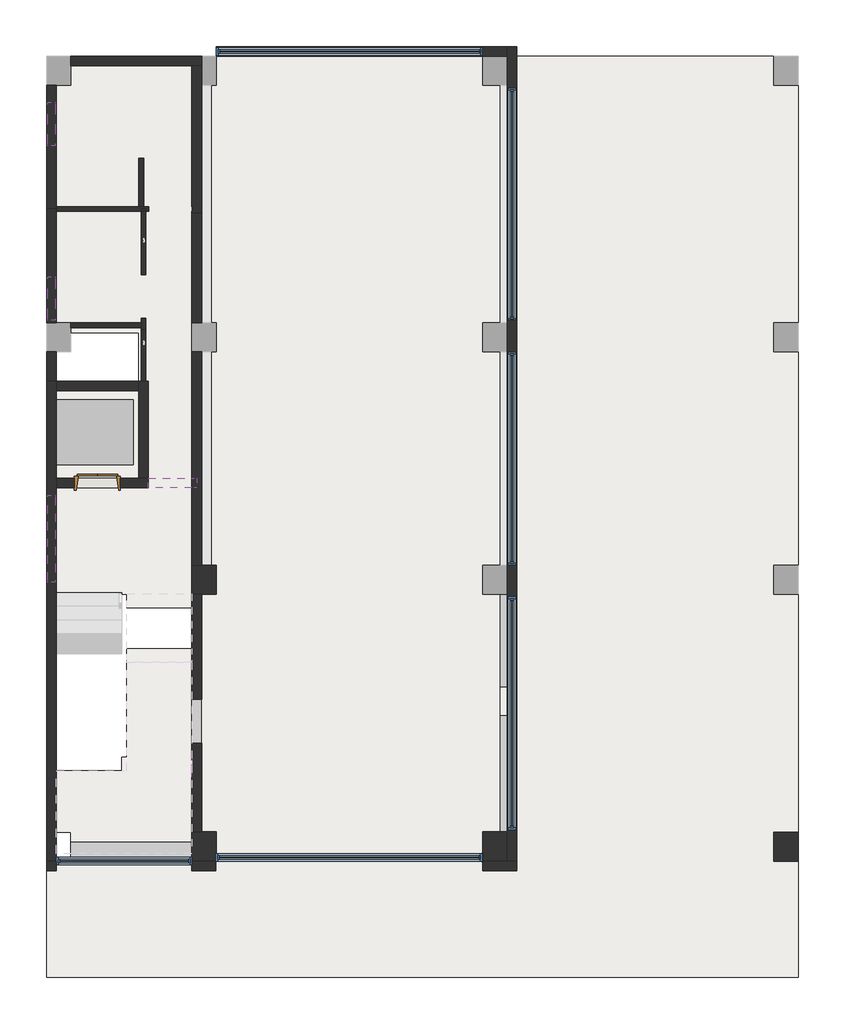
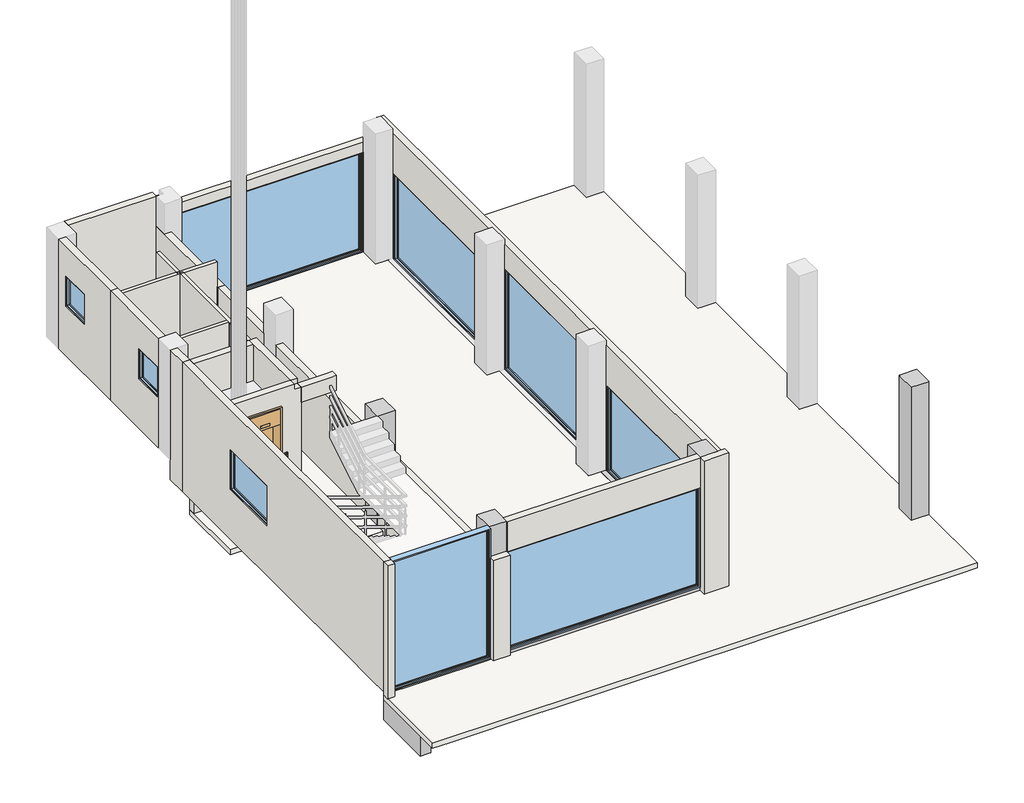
# One storey, part 1 of 2: 30 walls, 9 windows, 7 beams, 5 slabs, 4 columns, 1 door.
"""IFC4 building model written with IfcOpenShell, lengths in millimetres."""

from ifc_helpers import new_model, si_unit, frame, origin, origin_with_axes, place, context, project, spatial, polyline, outline, extrude, faceted_brep, transform, mapped, element, save
from components import door_097e9757, window_16c43cb3, window_f2f41d25, window_07c90ac9, window_f4563ead, window_f5195b1a, window_0159f90e, window_15473173

model = new_model("IFC4")

# Units and contexts
model_context = context("Model", 3, world=origin())
ifc_project = project(units=[si_unit("LENGTHUNIT", "METRE", prefix="MILLI")], contexts=[model_context])

# Site, building, storey
site = spatial("IfcSite", under=ifc_project)
building = spatial("IfcBuilding", under=site)
storey = spatial("IfcBuildingStorey", under=building, Name="1층", Elevation=0.0)

# Beams
placement = place(None, origin())
element("IfcBeam", 1, ObjectType="BM100-구조 보 : BM100-구조 보 400x900", at=placement, inside=storey, context=model_context, shape_type="Brep", body=[
    faceted_brep([(3250.0, -150.0, 0.0), (3250.0, -300.0, 0.0), (8750.0, -300.0, 0.0), (8750.0, -150.0, 0.0), (3250.0, -300.0, -900.0), (8750.0, -300.0, -900.0), (3250.0, 100.0, -900.0), (8750.0, 100.0, -900.0), (3250.0, 100.0, -150.0), (5663.2625647, 100.0, -150.0), (5963.2625647, 100.0, -150.0), (8750.0, 100.0, -150.0), (3250.0, -150.0, -150.0), (8750.0, -150.0, -150.0)], [[[0, 1, 2, 3]], [[1, 4, 5, 2]], [[4, 6, 7, 5]], [[6, 8, 9, 10, 11, 7]], [[12, 13, 11, 10, 9, 8]], [[13, 12, 0, 3]], [[6, 4, 1, 0, 12, 8]], [[3, 2, 5, 7, 11, 13]]]),
])
element("IfcBeam", 2, ObjectType="BM100-구조 보 : BM100-구조 보 400x900", at=placement, inside=storey, context=model_context, shape_type="Brep", body=[
    faceted_brep([(9250.0, 5200.0, 0.0), (9100.0, 5200.0, 0.0), (9100.0, 3300.0, 0.0), (9250.0, 3300.0, 0.0), (9250.0, 5200.0, -900.0), (9250.0, 3300.0, -100.0), (9250.0, 3300.0, -250.0), (9250.0, 3300.0, -900.0), (8850.0, 5200.0, -900.0), (8850.0, 3300.0, -900.0), (8850.0, 5200.0, -150.0), (8850.0, 3300.0, -150.0), (9100.0, 5200.0, -150.0), (9100.0, 3300.0, -100.0), (9100.0, 3300.0, -150.0)], [[[0, 1, 2, 3]], [[4, 0, 3, 5, 6, 7]], [[8, 4, 7, 9]], [[10, 8, 9, 11]], [[12, 1, 0, 4, 8, 10]], [[3, 2, 13, 14, 11, 9, 7, 6, 5]], [[1, 12, 14, 13, 2]], [[12, 10, 11, 14]]]),
    faceted_brep([(9250.0, 1840.0, -250.0), (9100.0, 1840.0, -250.0), (8850.0, 1840.0, -250.0), (8850.0, 1840.0, -900.0), (9250.0, 1840.0, -900.0), (9100.0, 1640.0, -250.0), (9250.0, 1640.0, -250.0), (9250.0, 1640.0, -900.0), (8850.0, 1640.0, -900.0), (8850.0, 1640.0, -250.0), (8850.0, 300.0, -150.0), (9100.0, 300.0, -150.0), (9100.0, 2700.0, -150.0), (8850.0, 2700.0, -150.0), (9100.0, 300.0, 0.0), (9100.0, 2700.0, 0.0), (9100.0, 2700.0, -100.0), (8850.0, 300.0, -900.0), (9250.0, 300.0, -900.0), (9250.0, 300.0, 0.0), (9250.0, 2700.0, 0.0), (9250.0, 2700.0, -100.0), (9250.0, 2700.0, -250.0), (9250.0, 2700.0, -900.0), (8850.0, 2700.0, -900.0)], [[[0, 1, 2, 3, 4]], [[5, 6, 7, 8, 9]], [[1, 0, 6, 5]], [[10, 11, 12, 13]], [[11, 14, 15, 16, 12]], [[2, 1, 5, 9]], [[11, 10, 17, 18, 19, 14]], [[15, 20, 21, 22, 23, 24, 13, 12, 16]], [[8, 7, 18, 17]], [[14, 19, 20, 15]], [[0, 4, 23, 22, 21, 20, 19, 18, 7, 6]], [[4, 3, 24, 23]], [[3, 2, 9, 8, 17, 10, 13, 24]]]),
])
element("IfcBeam", 3, ObjectType="BM100-구조 보 : BM100-구조 보 400x900", at=placement, inside=storey, context=model_context, shape_type="Brep", body=[
    faceted_brep([(2750.0, 5200.0, 0.0), (2750.0, 3035.0, 0.0), (2750.0, 2135.0, 0.0), (2750.0, 300.0, 0.0), (2950.0, 300.0, 0.0), (2950.0, 2135.0, 0.0), (2950.0, 3035.0, 0.0), (2950.0, 5200.0, 0.0), (3150.0, 1840.0, -900.0), (3150.0, 5200.0, -900.0), (3150.0, 5200.0, -150.0), (3150.0, 300.0, -150.0), (3150.0, 300.0, -900.0), (3150.0, 1640.0, -900.0), (3150.0, 1640.0, -250.0), (3150.0, 1840.0, -250.0), (2950.0, 300.0, -900.0), (2750.0, 300.0, -900.0), (2750.0, 1640.0, -900.0), (2850.0, 1640.0, -900.0), (2950.0, 1640.0, -900.0), (2750.0, 5200.0, -900.0), (2750.0, 1840.0, -900.0), (2750.0, 1840.0, -200.0), (2750.0, 1640.0, -200.0), (2850.0, 1840.0, -250.0), (2850.0, 1840.0, -200.0), (2850.0, 1840.0, -900.0), (2950.0, 1840.0, -900.0), (2850.0, 1640.0, -250.0), (2850.0, 1640.0, -200.0), (2950.0, 5200.0, -150.0), (2950.0, 300.0, -150.0), (2950.0, 5200.0, -900.0)], [[[0, 1, 2, 3, 4, 5, 6, 7]], [[8, 9, 10, 11, 12, 13, 14, 15]], [[12, 16, 17, 18, 19, 20, 13]], [[17, 3, 2, 1, 0, 21, 22, 23, 24, 18]], [[15, 25, 26, 23, 22, 27, 28, 8]], [[29, 14, 13, 20, 19, 18, 24, 30]], [[31, 32, 11, 10]], [[32, 31, 7, 6, 5, 4]], [[25, 15, 14, 29]], [[17, 16, 12, 11, 32, 4, 3]], [[9, 33, 21, 0, 7, 31, 10]], [[30, 26, 25, 29]], [[30, 24, 23, 26]], [[21, 33, 9, 8, 28, 27, 22]]]),
])
element("IfcBeam", 4, ObjectType="BM100-구조 보 : BM100-구조 보 400x600", at=placement, inside=storey, context=model_context, shape_type="Brep", body=[
    faceted_brep([(8750.0, 5300.0, -600.0), (8750.0, 5300.0, -150.0), (5963.2625647, 5300.0, -150.0), (5663.2625647, 5300.0, -150.0), (3250.0, 5300.0, -150.0), (3250.0, 5300.0, -600.0), (5663.2625647, 5300.0, -600.0), (5963.2625647, 5300.0, -600.0), (8750.0, 5700.0, -600.0), (3250.0, 5700.0, -600.0), (5663.2625647, 5700.0, -600.0), (5963.2625647, 5700.0, -600.0), (8750.0, 5700.0, -150.0), (3250.0, 5700.0, -150.0), (5663.2625647, 5700.0, -150.0), (5963.2625647, 5700.0, -150.0)], [[[0, 1, 2, 3, 4, 5, 6, 7]], [[8, 0, 7, 6, 5, 9, 10, 11]], [[12, 8, 11, 10, 9, 13, 14, 15]], [[4, 3, 2, 1, 12, 15, 14, 13]], [[0, 8, 12, 1]], [[5, 4, 13, 9]]]),
])
element("IfcBeam", 5, ObjectType="BM100-구조 보 : BM100-구조 보 300x600", at=placement, inside=storey, context=model_context, shape_type="SweptSolid", body=[
    extrude(outline(polyline([(5300.0, -600.0), (1840.0, -600.0), (1840.0, -250.0), (1640.0, -250.0), (1640.0, -600.0), (100.0, -600.0), (100.0, -150.0), (5300.0, -150.0), (5300.0, -600.0)])), frame((5663.2625647, 0.0, 0.0), z_axis=(1.0, 0.0, 0.0), x_axis=(0.0, 1.0, 0.0)), (0.0, 0.0, 1.0), 300.0),
])
element("IfcBeam", 6, ObjectType="BM100-구조 보 : BM100-구조 보 400x900", at=placement, inside=storey, context=model_context, shape_type="Brep", body=[
    faceted_brep([(250.0, 100.0, -50.0), (250.0, -300.0, -50.0), (2750.0, -300.0, -50.0), (2750.0, 100.0, -50.0), (250.0, -300.0, -950.0), (2750.0, -300.0, -950.0), (250.0, 100.0, -950.0), (2750.0, 100.0, -950.0), (250.0, 100.0, -200.0), (2750.0, 100.0, -200.0)], [[[0, 1, 2, 3]], [[1, 4, 5, 2]], [[4, 6, 7, 5]], [[6, 8, 0, 3, 9, 7]], [[1, 0, 8, 6, 4]], [[3, 2, 5, 7, 9]]]),
])
element("IfcBeam", 7, ObjectType="BM100-구조 보 : BM100-구조 보 300x600", at=placement, inside=storey, context=model_context, shape_type="Brep", body=[
    faceted_brep([(-250.0, -2100.0, -250.0), (50.0, -2100.0, -250.0), (50.0, -300.0, -250.0), (-250.0, -300.0, -250.0), (-250.0, -2100.0, -850.0), (-250.0, -300.0, -850.0), (50.0, -2100.0, -850.0), (-50.0, -2100.0, -850.0), (-50.0, -300.0, -850.0), (50.0, -300.0, -850.0)], [[[0, 1, 2, 3]], [[4, 0, 3, 5]], [[6, 7, 4, 5, 8, 9]], [[1, 6, 9, 2]], [[1, 0, 4, 7, 6]], [[3, 2, 9, 8, 5]]]),
])

# Columns
element("IfcColumn", 8, ObjectType="CL100-구조 기둥 : CL100-구조 기둥_500x600", at=placement, inside=storey, context=model_context, shape_type="Brep", body=[
    faceted_brep([(2750.0, -300.0, 0.0), (2750.0, 300.0, 0.0), (2950.0, 300.0, 0.0), (3250.0, 300.0, 0.0), (3250.0, -300.0, 0.0), (2750.0, -300.0, 3900.0), (2750.0, -150.0, 3900.0), (2750.0, 300.0, 3900.0), (2750.0, 300.0, 3750.0), (2750.0, 300.0, 3000.0), (2750.0, -300.0, 3750.0), (3250.0, 300.0, 3900.0), (3250.0, 300.0, 3750.0), (3250.0, -150.0, 3900.0), (3250.0, -300.0, 3900.0), (3250.0, -300.0, 3750.0), (3250.0, -300.0, 3150.0)], [[[0, 1, 2, 3, 4]], [[5, 6, 7, 8, 9, 1, 0, 10]], [[7, 11, 12, 3, 2, 1, 9, 8]], [[11, 13, 14, 15, 16, 4, 3, 12]], [[14, 5, 10, 0, 4, 16, 15]], [[5, 14, 13, 11, 7, 6]]]),
])
element("IfcColumn", 9, ObjectType="CL100-구조 기둥 : CL100-구조 기둥_500x600", at=placement, inside=storey, context=model_context, shape_type="Brep", body=[
    faceted_brep([(8750.0, -300.0, 0.0), (8750.0, 300.0, 0.0), (9250.0, 300.0, 0.0), (9250.0, -300.0, 0.0), (8750.0, -300.0, 3900.0), (8750.0, 300.0, 3900.0), (8750.0, 300.0, 3750.0), (8750.0, -300.0, 3750.0), (9250.0, 300.0, 3900.0), (9250.0, 300.0, 3750.0), (9250.0, -300.0, 3900.0), (9250.0, -300.0, 3750.0)], [[[0, 1, 2, 3]], [[4, 5, 6, 1, 0, 7]], [[5, 8, 9, 2, 1, 6]], [[8, 10, 11, 3, 2, 9]], [[10, 4, 7, 0, 3, 11]], [[4, 10, 8, 5]]]),
])
element("IfcColumn", 10, ObjectType="CL100-구조 기둥 : CL100-구조 기둥_500x600", at=placement, inside=storey, context=model_context, shape_type="Brep", body=[
    faceted_brep([(14750.0, -305.5, 3900.0), (14750.0, 200.0, 3900.0), (14750.0, 294.5, 3900.0), (14750.0, 294.5, 3750.0), (14750.0, 294.5, -100.0), (14750.0, -305.5, -100.0), (14750.0, -305.5, 3750.0), (15250.0, 294.5, 3900.0), (15250.0, 294.5, 3750.0), (15250.0, 294.5, -100.0), (15250.0, 200.0, 3900.0), (15250.0, -300.0, 3900.0), (15250.0, -305.5, 3900.0), (15250.0, -305.5, 3750.0), (15250.0, -305.5, -100.0)], [[[0, 1, 2, 3, 4, 5, 6]], [[2, 7, 8, 9, 4, 3]], [[7, 10, 11, 12, 13, 14, 9, 8]], [[12, 0, 6, 5, 14, 13]], [[2, 1, 0, 12, 11, 10, 7]], [[5, 4, 9, 14]]]),
])
element("IfcColumn", 11, ObjectType="CL100-구조 기둥 : CL100-구조 기둥_500x600", at=placement, inside=storey, context=model_context, shape_type="Brep", body=[
    faceted_brep([(2750.0, 5200.0, 600.0), (2750.0, 5800.0, 600.0), (3250.0, 5800.0, 600.0), (3250.0, 5200.0, 600.0), (2750.0, 5200.0, 3900.0), (2750.0, 5800.0, 3900.0), (2750.0, 5800.0, 3750.0), (2750.0, 5800.0, 2850.0), (2750.0, 5200.0, 3000.0), (2750.0, 5200.0, 3750.0), (3250.0, 5800.0, 3900.0), (3250.0, 5800.0, 3750.0), (3250.0, 5200.0, 3900.0), (3250.0, 5200.0, 3750.0)], [[[0, 1, 2, 3]], [[4, 5, 6, 7, 1, 0, 8, 9]], [[5, 10, 11, 2, 1, 7, 6]], [[10, 12, 13, 3, 2, 11]], [[12, 4, 9, 8, 0, 3, 13]], [[4, 12, 10, 5]]]),
])

# Door
door_shape = door_097e9757(model_context)
element("IfcDoor", 12, ObjectType="XX111-승객용 엘리베이터 (다용도, 800KG) 상판 출입구800 : 엘리베이터 800", at=placement, inside=storey, context=model_context, shape_type="MappedRepresentation", body=[
    mapped(door_shape, transform((925.0, 7500.0, 780.0), x_axis=(-1.0, 0.0, 0.0), y_axis=(0.0, -1.0, 0.0), z_axis=(0.0, 0.0, 1.0))),
])

# Slabs
element("IfcSlab", 13, ObjectType="SL100-구조 바닥 150", at=placement, inside=storey, context=model_context, shape_type="Brep", body=[
    faceted_brep([(15250.0, -2700.0, -250.0), (14750.0, -2700.0, -250.0), (9250.0, -2700.0, -250.0), (8750.0, -2700.0, -250.0), (3250.0, -2700.0, -250.0), (2750.0, -2700.0, -250.0), (250.0, -2700.0, -250.0), (-250.0, -2700.0, -250.0), (-250.0, -2100.0, -250.0), (-250.0, -300.0, -250.0), (50.0, -300.0, -250.0), (2950.0, -300.0, -250.0), (3150.0, -300.0, -250.0), (5663.2625647, -300.0, -250.0), (5963.2625647, -300.0, -250.0), (8850.0, -300.0, -250.0), (9100.0, -300.0, -250.0), (9100.0, 2700.0, -250.0), (9100.0, 3300.0, -250.0), (9100.0, 10500.0, -250.0), (9250.0, 10500.0, -250.0), (9250.0, 10700.0, -250.0), (9250.0, 15900.0, -250.0), (9250.0, 16300.0, -250.0), (14750.0, 16300.0, -250.0), (15250.0, 16300.0, -250.0), (15250.0, 15700.0, -250.0), (15250.0, 10800.0, -250.0), (15250.0, 10200.0, -250.0), (15250.0, 5800.0, -250.0), (15250.0, 5200.0, -250.0), (15250.0, 1840.0, -250.0), (15250.0, 1640.0, -250.0), (15250.0, 300.0, -250.0), (15250.0, -300.0, -250.0), (15250.0, -2100.0, -250.0), (-250.0, -2700.0, -100.0), (15250.0, -2700.0, -100.0), (15250.0, -305.5, -100.0), (15250.0, 294.5, -100.0), (15250.0, 5200.0, -100.0), (15250.0, 5800.0, -100.0), (15250.0, 10200.0, -100.0), (15250.0, 10800.0, -100.0), (15250.0, 15700.0, -100.0), (15250.0, 16300.0, -100.0), (14750.0, 16300.0, -100.0), (9250.0, 16300.0, -100.0), (9250.0, 10500.0, -100.0), (9100.0, 10500.0, -100.0), (9100.0, 3300.0, -100.0), (9100.0, 2700.0, -100.0), (9100.0, -300.0, -100.0), (-250.0, -300.0, -100.0)], [[[0, 1, 2, 3, 4, 5, 6, 7, 8, 9, 10, 11, 12, 13, 14, 15, 16, 17, 18, 19, 20, 21, 22, 23, 24, 25, 26, 27, 28, 29, 30, 31, 32, 33, 34, 35]], [[36, 37, 38, 39, 40, 41, 42, 43, 44, 45, 46, 47, 48, 49, 50, 51, 52, 53]], [[7, 6, 5, 4, 3, 2, 1, 0, 37, 36]], [[9, 8, 7, 36, 53]], [[16, 15, 14, 13, 12, 11, 10, 9, 53, 52]], [[16, 52, 51, 50, 49, 19, 18, 17]], [[45, 25, 24, 23, 47, 46]], [[0, 35, 34, 33, 32, 31, 30, 29, 28, 27, 26, 25, 45, 44, 43, 42, 41, 40, 39, 38, 37]], [[20, 48, 47, 23, 22, 21]], [[20, 19, 49, 48]]]),
])
element("IfcSlab", 14, ObjectType="SL100-구조 바닥 150", at=placement, inside=storey, context=model_context, shape_type="Brep", body=[
    faceted_brep([(-50.0, 1560.0, -200.0), (1299.7569864, 1560.0, -200.0), (1299.7569864, 1840.0, -200.0), (1400.2430136, 1840.0, -200.0), (1400.2430136, 4080.0, -200.0), (2750.0, 4080.0, -200.0), (2750.0, 1840.0, -200.0), (2750.0, 1640.0, -200.0), (2750.0, 100.0, -200.0), (250.0, 100.0, -200.0), (250.0, 300.0, -200.0), (-50.0, 300.0, -200.0), (1299.7569864, 1560.0, -50.0), (-50.0, 1560.0, -50.0), (-50.0, 300.0, -50.0), (250.0, 300.0, -50.0), (250.0, 100.0, -50.0), (2750.0, 100.0, -50.0), (2750.0, 4080.0, -50.0), (1400.2430136, 4080.0, -50.0), (1400.2430136, 1840.0, -50.0), (1299.7569864, 1840.0, -50.0)], [[[0, 1, 2, 3, 4, 5, 6, 7, 8, 9, 10, 11]], [[12, 13, 14, 15, 16, 17, 18, 19, 20, 21]], [[13, 0, 11, 14]], [[1, 0, 13, 12]], [[4, 3, 20, 19]], [[5, 4, 19, 18]], [[5, 18, 17, 8, 7, 6]], [[2, 1, 12, 21]], [[3, 2, 21, 20]], [[11, 10, 15, 14]], [[15, 10, 9, 16]], [[9, 8, 17, 16]]]),
])
element("IfcSlab", 15, ObjectType="SL100-구조 바닥 150", at=placement, inside=storey, context=model_context, shape_type="Brep", body=[
    faceted_brep([(-50.0, 5200.0, 450.0), (-50.0, 7600.0, 450.0), (1650.0, 7600.0, 450.0), (1650.0, 10600.0, 450.0), (250.0, 10600.0, 450.0), (250.0, 10800.0, 450.0), (-50.0, 10800.0, 450.0), (-50.0, 15700.0, 450.0), (250.0, 15700.0, 450.0), (250.0, 16100.0, 450.0), (2750.0, 16100.0, 450.0), (2750.0, 4920.0, 450.0), (1400.2430136, 4920.0, 450.0), (1400.2430136, 5200.0, 450.0), (-50.0, 7600.0, 600.0), (-50.0, 5200.0, 600.0), (1400.2430136, 5200.0, 600.0), (1400.2430136, 4920.0, 600.0), (2750.0, 4920.0, 600.0), (2750.0, 5200.0, 600.0), (2750.0, 5800.0, 600.0), (2750.0, 10200.0, 600.0), (2750.0, 10800.0, 600.0), (2750.0, 15700.0, 600.0), (2750.0, 16100.0, 600.0), (250.0, 16100.0, 600.0), (250.0, 15700.0, 600.0), (-50.0, 15700.0, 600.0), (-50.0, 10800.0, 600.0), (250.0, 10800.0, 600.0), (250.0, 10600.0, 600.0), (1650.0, 10600.0, 600.0), (1650.0, 7600.0, 600.0)], [[[0, 1, 2, 3, 4, 5, 6, 7, 8, 9, 10, 11, 12, 13]], [[14, 15, 16, 17, 18, 19, 20, 21, 22, 23, 24, 25, 26, 27, 28, 29, 30, 31, 32]], [[1, 0, 15, 14]], [[24, 10, 9, 25]], [[11, 10, 24, 23, 22, 21, 20, 19, 18]], [[0, 13, 16, 15]], [[2, 1, 14, 32]], [[3, 2, 32, 31]], [[3, 31, 30, 4]], [[6, 28, 27, 7]], [[12, 11, 18, 17]], [[13, 12, 17, 16]], [[5, 29, 28, 6]], [[29, 5, 4, 30]], [[8, 26, 25, 9]], [[26, 8, 7, 27]]]),
])
element("IfcSlab", 16, ObjectType="SL100-구조 바닥 150", at=placement, inside=storey, context=model_context, shape_type="SweptSolid", body=[
    extrude(outline(polyline([(1650.0, 9600.0), (1650.0, 7600.0), (-50.0, 7600.0), (-50.0, 9600.0), (1650.0, 9600.0)])), frame((0.0, 0.0, -750.0), z_axis=(0.0, 0.0, 1.0), x_axis=(1.0, 0.0, 0.0)), (0.0, 0.0, 1.0), 150.0),
])
element("IfcSlab", 17, ObjectType="SL100-구조 바닥 150", at=placement, inside=storey, context=model_context, shape_type="Brep", body=[
    faceted_brep([(3250.0, -150.0, -150.0), (3250.0, 100.0, -150.0), (3250.0, 300.0, -150.0), (3150.0, 300.0, -150.0), (2950.0, 300.0, -150.0), (2950.0, 5200.0, -150.0), (3150.0, 5200.0, -150.0), (3250.0, 5200.0, -150.0), (3250.0, 5300.0, -150.0), (3250.0, 5700.0, -150.0), (3250.0, 5800.0, -150.0), (3150.0, 5800.0, -150.0), (3150.0, 10200.0, -150.0), (3250.0, 10200.0, -150.0), (3250.0, 10300.0, -150.0), (3250.0, 10700.0, -150.0), (3250.0, 10800.0, -150.0), (3150.0, 10800.0, -150.0), (3150.0, 15700.0, -150.0), (3250.0, 15700.0, -150.0), (3250.0, 15900.0, -150.0), (3250.0, 16300.0, -150.0), (8750.0, 16300.0, -150.0), (8750.0, 15900.0, -150.0), (8750.0, 15700.0, -150.0), (8850.0, 15700.0, -150.0), (9100.0, 15700.0, -150.0), (9100.0, 10800.0, -150.0), (8850.0, 10800.0, -150.0), (8750.0, 10800.0, -150.0), (8750.0, 10700.0, -150.0), (8750.0, 10300.0, -150.0), (8750.0, 10200.0, -150.0), (8850.0, 10200.0, -150.0), (9100.0, 10200.0, -150.0), (9100.0, 5800.0, -150.0), (8850.0, 5800.0, -150.0), (8750.0, 5800.0, -150.0), (8750.0, 5700.0, -150.0), (8750.0, 5300.0, -150.0), (8750.0, 5200.0, -150.0), (8850.0, 5200.0, -150.0), (9100.0, 5200.0, -150.0), (9100.0, 3300.0, -150.0), (9100.0, 2700.0, -150.0), (9100.0, 300.0, -150.0), (8850.0, 300.0, -150.0), (8750.0, 300.0, -150.0), (8750.0, 100.0, -150.0), (8750.0, -150.0, -150.0), (3250.0, 300.0, 0.0), (3250.0, -150.0, 0.0), (8750.0, -150.0, 0.0), (8750.0, 300.0, 0.0), (9100.0, 300.0, 0.0), (9100.0, 2700.0, 0.0), (9100.0, 3300.0, 0.0), (9100.0, 5200.0, 0.0), (8750.0, 5200.0, 0.0), (8750.0, 5800.0, 0.0), (9100.0, 5800.0, 0.0), (9100.0, 10200.0, 0.0), (8750.0, 10200.0, 0.0), (8750.0, 10800.0, 0.0), (9100.0, 10800.0, 0.0), (9100.0, 15700.0, 0.0), (8750.0, 15700.0, 0.0), (8750.0, 16300.0, 0.0), (3250.0, 16300.0, 0.0), (3250.0, 15700.0, 0.0), (3150.0, 15700.0, 0.0), (3150.0, 10800.0, 0.0), (3250.0, 10800.0, 0.0), (3250.0, 10200.0, 0.0), (3150.0, 10200.0, 0.0), (3150.0, 5800.0, 0.0), (3250.0, 5800.0, 0.0), (3250.0, 5200.0, 0.0), (2950.0, 5200.0, 0.0), (2950.0, 300.0, 0.0)], [[[0, 1, 2, 3, 4, 5, 6, 7, 8, 9, 10, 11, 12, 13, 14, 15, 16, 17, 18, 19, 20, 21, 22, 23, 24, 25, 26, 27, 28, 29, 30, 31, 32, 33, 34, 35, 36, 37, 38, 39, 40, 41, 42, 43, 44, 45, 46, 47, 48, 49]], [[50, 51, 52, 53, 54, 55, 56, 57, 58, 59, 60, 61, 62, 63, 64, 65, 66, 67, 68, 69, 70, 71, 72, 73, 74, 75, 76, 77, 78, 79]], [[2, 1, 0, 51, 50]], [[4, 3, 2, 50, 79]], [[5, 4, 79, 78]], [[7, 6, 5, 78, 77]], [[10, 9, 8, 7, 77, 76]], [[10, 76, 75, 11]], [[73, 13, 12, 74]], [[16, 15, 14, 13, 73, 72]], [[16, 72, 71, 17]], [[69, 19, 18, 70]], [[21, 20, 19, 69, 68]], [[22, 21, 68, 67]], [[24, 23, 22, 67, 66]], [[26, 25, 24, 66, 65]], [[27, 26, 65, 64]], [[29, 28, 27, 64, 63]], [[32, 31, 30, 29, 63, 62]], [[34, 33, 32, 62, 61]], [[35, 34, 61, 60]], [[37, 36, 35, 60, 59]], [[40, 39, 38, 37, 59, 58]], [[42, 41, 40, 58, 57]], [[45, 44, 43, 42, 57, 56, 55, 54]], [[47, 46, 45, 54, 53]], [[49, 48, 47, 53, 52]], [[0, 49, 52, 51]], [[18, 17, 71, 70]], [[12, 11, 75, 74]]]),
])

# Walls
element("IfcWall", 18, ObjectType="WA100-구조 벽 200", at=placement, inside=storey, context=model_context, shape_type="SweptSolid", body=[
    extrude(outline(polyline([(15050.0, 10800.0), (15050.0, 15700.0), (15250.0, 15700.0), (15250.0, 10800.0), (15050.0, 10800.0)])), frame((0.0, 0.0, -1050.0), z_axis=(0.0, 0.0, 1.0), x_axis=(1.0, 0.0, 0.0)), (0.0, 0.0, 1.0), 200.0),
])
element("IfcWall", 19, ObjectType="WA100-구조 벽 200", at=placement, inside=storey, context=model_context, shape_type="Brep", body=[
    faceted_brep([(-50.0, 9600.0, 0.0), (-50.0, 9600.0, 3900.0), (-50.0, 9400.0, 3900.0), (-50.0, 7600.0, 3900.0), (-50.0, 7400.0, 3900.0), (-50.0, 5200.0, 3900.0), (-50.0, -100.0, 3900.0), (-50.0, -100.0, 0.0), (-50.0, 300.0, 0.0), (-50.0, 1600.0, 0.0), (-50.0, 7500.0, 0.0), (-50.0, 7250.0, 2700.0), (-50.0, 7250.0, 1500.0), (-50.0, 5450.0, 1500.0), (-50.0, 5450.0, 2700.0), (-250.0, 9600.0, 0.0), (-250.0, 7500.0, 0.0), (-250.0, 1600.0, 0.0), (-250.0, 300.0, 0.0), (-250.0, -300.0, 0.0), (-250.0, -400.0, 0.0), (-250.0, -400.0, 3900.0), (-250.0, -300.0, 3900.0), (-250.0, 5200.0, 3900.0), (-250.0, 7600.0, 3900.0), (-250.0, 9600.0, 3900.0), (-250.0, 7250.0, 1500.0), (-250.0, 7250.0, 2700.0), (-250.0, 5450.0, 2700.0), (-250.0, 5450.0, 1500.0), (-50.25, -100.0, 0.0), (-50.25, -400.0, 0.0), (-50.25, -400.0, 3900.0), (-50.25, -100.0, 3900.0)], [[[0, 1, 2, 3, 4, 5, 6, 7, 8, 9, 10], [11, 12, 13, 14]], [[15, 16, 17, 18, 19, 20, 21, 22, 23, 24, 25], [26, 27, 28, 29]], [[20, 19, 18, 17, 16, 15, 0, 10, 9, 8, 7, 30, 31]], [[1, 0, 15, 25]], [[25, 24, 23, 22, 21, 32, 33, 6, 5, 4, 3, 2, 1]], [[21, 20, 31, 32]], [[11, 27, 26, 12]], [[12, 26, 29, 13]], [[13, 29, 28, 14]], [[27, 11, 14, 28]], [[33, 30, 7, 6]], [[30, 33, 32, 31]]]),
])
element("IfcWall", 20, ObjectType="WA100-구조 벽 200", at=placement, inside=storey, context=model_context, shape_type="Brep", body=[
    faceted_brep([(-50.0, 7400.0, 600.0), (1850.0, 7400.0, 600.0), (1850.0, 7400.0, 3300.0), (1850.0, 7400.0, 3750.0), (1650.0, 7400.0, 3750.0), (1650.0, 7400.0, 3900.0), (-50.0, 7400.0, 3900.0), (-50.0, 7400.0, 3750.0), (1275.0, 7400.0, 3380.0), (1275.0, 7400.0, 780.0), (325.0, 7400.0, 780.0), (325.0, 7400.0, 3380.0), (1850.0, 7600.0, 600.0), (-50.0, 7600.0, 600.0), (-50.0, 7600.0, 3900.0), (1650.0, 7600.0, 3900.0), (1650.0, 7600.0, 3750.0), (1850.0, 7600.0, 3750.0), (1850.0, 7600.0, 3300.0), (1275.0, 7600.0, 780.0), (1275.0, 7600.0, 3380.0), (325.0, 7600.0, 3380.0), (325.0, 7600.0, 780.0)], [[[0, 1, 2, 3, 4, 5, 6, 7], [8, 9, 10, 11]], [[12, 13, 14, 15, 16, 17, 18], [19, 20, 21, 22]], [[1, 0, 13, 12]], [[14, 6, 5, 15]], [[6, 14, 13, 0, 7]], [[19, 9, 8, 20]], [[9, 19, 22, 10]], [[10, 22, 21, 11]], [[20, 8, 11, 21]], [[16, 4, 3, 17]], [[1, 12, 18, 17, 3, 2]], [[4, 16, 15, 5]]]),
])
element("IfcWall", 21, ObjectType="WA700-수장 벽 100", at=placement, inside=storey, context=model_context, shape_type="SweptSolid", body=[
    extrude(outline(polyline([(1700.0, 10700.0), (250.0, 10700.0), (250.0, 10800.0), (1700.0, 10800.0), (1700.0, 10700.0)])), frame((0.0, 0.0, 600.0), z_axis=(0.0, 0.0, 1.0), x_axis=(1.0, 0.0, 0.0)), (0.0, 0.0, 1.0), 3150.0),
])
element("IfcWall", 22, ObjectType="WA100-구조 벽 200", at=placement, inside=storey, context=model_context, shape_type="Brep", body=[
    faceted_brep([(2950.0, 5200.0, 0.0), (2950.0, 5200.0, 2850.0), (2950.0, 5200.0, 3000.0), (2950.0, 300.0, 3000.0), (2950.0, 300.0, 2850.0), (2950.0, 300.0, 0.0), (2950.0, 2135.0, 0.0), (2950.0, 2135.0, 1800.0), (2950.0, 3035.0, 1800.0), (2950.0, 3035.0, 0.0), (2750.0, 5200.0, 3000.0), (2750.0, 5200.0, 600.0), (2750.0, 5200.0, 0.0), (2750.0, 3035.0, 0.0), (2750.0, 3035.0, 1800.0), (2750.0, 2135.0, 1800.0), (2750.0, 2135.0, 0.0), (2750.0, 300.0, 0.0), (2750.0, 300.0, 3000.0)], [[[0, 1, 2, 3, 4, 5, 6, 7, 8, 9]], [[10, 11, 12, 13, 14, 15, 16, 17, 18]], [[12, 0, 9, 13]], [[5, 17, 16, 6]], [[2, 1, 0, 12, 11, 10]], [[3, 2, 10, 18]], [[5, 4, 3, 18, 17]], [[15, 7, 6, 16]], [[7, 15, 14, 8]], [[8, 14, 13, 9]]]),
])
element("IfcWall", 23, ObjectType="WA100-구조 벽 200", at=placement, inside=storey, context=model_context, shape_type="SweptSolid", body=[
    extrude(outline(polyline([(1850.0, 9600.0), (1850.0, 7600.0), (1650.0, 7600.0), (1650.0, 9600.0), (1850.0, 9600.0)])), frame((0.0, 0.0, 600.0), z_axis=(0.0, 0.0, 1.0), x_axis=(1.0, 0.0, 0.0)), (0.0, 0.0, 1.0), 3300.0),
])
element("IfcWall", 24, ObjectType="WA100-구조 벽 200", at=placement, inside=storey, context=model_context, shape_type="Brep", body=[
    faceted_brep([(-50.0, 9400.0, 3900.0), (-50.0, 9400.0, -600.0), (1650.0, 9400.0, -600.0), (1650.0, 9400.0, 3900.0), (-50.0, 9600.0, -600.0), (-50.0, 9600.0, 0.0), (-50.0, 9600.0, 3900.0), (1650.0, 9600.0, 3900.0), (1650.0, 9600.0, -600.0), (1650.0, 9500.0, 3900.0), (-50.0, 9500.0, 3900.0)], [[[0, 1, 2, 3]], [[4, 5, 6, 7, 8]], [[2, 1, 4, 8]], [[0, 3, 9, 7, 6, 10]], [[2, 8, 7, 9, 3]], [[0, 10, 6, 5, 4, 1]]]),
])
element("IfcWall", 25, ObjectType="WA700-수장 벽 100", at=placement, inside=storey, context=model_context, shape_type="SweptSolid", body=[
    extrude(outline(polyline([(1700.0, 13100.0), (1700.0, 13150.0), (1800.0, 13150.0), (1800.0, 13100.0), (1700.0, 13100.0)])), frame((0.0, 0.0, 600.0), z_axis=(0.0, 0.0, 1.0), x_axis=(1.0, 0.0, 0.0)), (0.0, 0.0, 1.0), 3150.0),
])
element("IfcWall", 26, ObjectType="WA700-수장 벽 100", at=placement, inside=storey, context=model_context, shape_type="Brep", body=[
    faceted_brep([(2750.0, 13100.0, 3750.0), (1800.0, 13100.0, 3750.0), (1700.0, 13100.0, 3750.0), (-50.0, 13100.0, 3750.0), (-50.0, 13100.0, 600.0), (1700.0, 13100.0, 600.0), (1800.0, 13100.0, 600.0), (1855.0, 13100.0, 600.0), (1855.0, 13100.0, 2400.0), (2750.0, 13100.0, 2400.0), (-50.0, 13200.0, 3750.0), (1650.0, 13200.0, 3750.0), (1750.0, 13200.0, 3750.0), (2750.0, 13200.0, 3750.0), (2750.0, 13200.0, 2400.0), (1855.0, 13200.0, 2400.0), (1855.0, 13200.0, 600.0), (1750.0, 13200.0, 600.0), (1650.0, 13200.0, 600.0), (-50.0, 13200.0, 600.0), (-50.0, 13150.0, 600.0)], [[[0, 1, 2, 3, 4, 5, 6, 7, 8, 9]], [[10, 11, 12, 13, 14, 15, 16, 17, 18, 19]], [[4, 20, 19, 18, 17, 16, 7, 6, 5]], [[13, 0, 9, 14]], [[3, 2, 1, 0, 13, 12, 11, 10]], [[8, 15, 14, 9]], [[15, 8, 7, 16]], [[4, 3, 10, 19, 20]]]),
])
element("IfcWall", 27, ObjectType="WA100-구조 벽 200", at=placement, inside=storey, context=model_context, shape_type="SweptSolid", body=[
    extrude(outline(polyline([(2950.0, 10200.0), (2950.0, 5800.0), (2750.0, 5800.0), (2750.0, 10200.0), (2950.0, 10200.0)])), frame((0.0, 0.0, 600.0), z_axis=(0.0, 0.0, 1.0), x_axis=(1.0, 0.0, 0.0)), (0.0, 0.0, 1.0), 2400.0),
])
element("IfcWall", 28, ObjectType="WA100-구조 벽 200", at=placement, inside=storey, context=model_context, shape_type="Brep", body=[
    faceted_brep([(2750.0, 13060.0, 600.0), (2750.0, 13060.0, 3000.0), (2750.0, 16100.0, 3000.0), (2750.0, 16100.0, 600.0), (2750.0, 13200.0, 600.0), (2750.0, 13200.0, 2400.0), (2750.0, 13100.0, 2400.0), (2750.0, 13100.0, 600.0), (2950.0, 13060.0, 600.0), (2950.0, 16100.0, 600.0), (2950.0, 16100.0, 3000.0), (2950.0, 13060.0, 3000.0), (2755.0, 13100.0, 600.0), (2755.0, 13200.0, 600.0), (2755.0, 13100.0, 2400.0), (2755.0, 13200.0, 2400.0)], [[[0, 1, 2, 3, 4, 5, 6, 7]], [[8, 9, 10, 11]], [[9, 8, 0, 7, 12, 13, 4, 3]], [[1, 0, 8, 11]], [[2, 1, 11, 10]], [[14, 12, 7, 6]], [[13, 15, 5, 4]], [[12, 14, 15, 13]], [[15, 14, 6, 5]], [[3, 2, 10, 9]]]),
])
element("IfcWall", 29, ObjectType="WA100-구조 벽 200", at=placement, inside=storey, context=model_context, shape_type="Brep", body=[
    faceted_brep([(250.0, 16100.0, 600.0), (2750.0, 16100.0, 600.0), (2950.0, 16100.0, 600.0), (2950.0, 16100.0, 3750.0), (2750.0, 16100.0, 3750.0), (2750.0, 16100.0, 3900.0), (250.0, 16100.0, 3900.0), (250.0, 16100.0, 3750.0), (2950.0, 16300.0, 600.0), (2750.0, 16300.0, 600.0), (250.0, 16300.0, 600.0), (250.0, 16300.0, 3900.0), (2750.0, 16300.0, 3900.0), (2750.0, 16300.0, 3750.0), (2950.0, 16300.0, 3750.0)], [[[0, 1, 2, 3, 4, 5, 6, 7]], [[8, 9, 10, 11, 12, 13, 14]], [[2, 1, 0, 10, 9, 8]], [[11, 6, 5, 12]], [[11, 10, 0, 7, 6]], [[13, 4, 3, 14]], [[4, 13, 12, 5]], [[2, 8, 14, 3]]]),
])
element("IfcWall", 30, ObjectType="WA700-수장 벽 100", at=placement, inside=storey, context=model_context, shape_type="SweptSolid", body=[
    extrude(outline(polyline([(1750.0, 13200.0), (1750.0, 13150.0), (1650.0, 13150.0), (1650.0, 13200.0), (1750.0, 13200.0)])), frame((0.0, 0.0, 600.0), z_axis=(0.0, 0.0, 1.0), x_axis=(1.0, 0.0, 0.0)), (0.0, 0.0, 1.0), 3150.0),
])
element("IfcWall", 31, ObjectType="WA100-구조 벽 200", at=placement, inside=storey, context=model_context, shape_type="Brep", body=[
    faceted_brep([(2850.0, 7600.0, 3300.0), (2750.0, 7600.0, 3300.0), (1850.0, 7600.0, 3300.0), (1850.0, 7600.0, 3750.0), (2750.0, 7600.0, 3750.0), (2850.0, 7600.0, 3750.0), (1850.0, 7400.0, 3300.0), (2750.0, 7400.0, 3300.0), (2850.0, 7400.0, 3300.0), (2850.0, 7400.0, 3750.0), (2750.0, 7400.0, 3750.0), (1850.0, 7400.0, 3750.0)], [[[0, 1, 2, 3, 4, 5]], [[6, 7, 8, 9, 10, 11]], [[2, 1, 0, 8, 7, 6]], [[8, 0, 5, 9]], [[2, 6, 11, 3]], [[5, 4, 3, 11, 10, 9]]]),
])
element("IfcWall", 32, ObjectType="WA100-구조 벽 200", at=placement, inside=storey, context=model_context, shape_type="SweptSolid", body=[
    extrude(outline(polyline([(15050.0, 1840.0), (15050.0, 5200.0), (15250.0, 5200.0), (15250.0, 1840.0), (15050.0, 1840.0)])), frame((0.0, 0.0, -1050.0), z_axis=(0.0, 0.0, 1.0), x_axis=(1.0, 0.0, 0.0)), (0.0, 0.0, 1.0), 200.0),
])
element("IfcWall", 33, ObjectType="WA100-구조 벽 200", at=placement, inside=storey, context=model_context, shape_type="Brep", body=[
    faceted_brep([(-50.0, 10800.0, 600.0), (-50.0, 13100.0, 600.0), (-50.0, 13150.0, 600.0), (-50.0, 13150.0, 3900.0), (-50.0, 10800.0, 3900.0), (-50.0, 10850.0, 2100.0), (-50.0, 10850.0, 3000.0), (-50.0, 11750.0, 3000.0), (-50.0, 11750.0, 2100.0), (-250.0, 13150.0, 600.0), (-250.0, 10800.0, 600.0), (-250.0, 10800.0, 3900.0), (-250.0, 13150.0, 3900.0), (-250.0, 10850.0, 3000.0), (-250.0, 10850.0, 2100.0), (-250.0, 11750.0, 2100.0), (-250.0, 11750.0, 3000.0)], [[[0, 1, 2, 3, 4], [5, 6, 7, 8]], [[9, 10, 11, 12], [13, 14, 15, 16]], [[2, 1, 0, 10, 9]], [[4, 3, 12, 11]], [[0, 4, 11, 10]], [[13, 6, 5, 14]], [[14, 5, 8, 15]], [[15, 8, 7, 16]], [[6, 13, 16, 7]], [[2, 9, 12, 3]]]),
])
element("IfcWall", 34, ObjectType="WA100-구조 벽 200", at=placement, inside=storey, context=model_context, shape_type="Brep", body=[
    faceted_brep([(15050.0, 10200.0, -1050.0), (15050.0, 5800.0, -1050.0), (15050.0, 5800.0, -850.0), (15050.0, 10200.0, -850.0), (15250.0, 10200.0, -1050.0), (15250.0, 10200.0, -850.0), (15250.0, 5802.1275994, -850.0), (15250.0, 5800.0, -850.0), (15250.0, 5800.0, -1050.0)], [[[0, 1, 2, 3]], [[4, 5, 6, 7, 8]], [[1, 0, 4, 8]], [[2, 1, 8, 7]], [[3, 2, 7, 6, 5]], [[0, 3, 5, 4]]]),
])
element("IfcWall", 35, ObjectType="WA100-구조 벽 200", at=placement, inside=storey, context=model_context, shape_type="SweptSolid", body=[
    extrude(outline(polyline([(3240.0, -300.0), (3240.0, -500.0), (2749.75, -500.0), (2749.75, -300.0), (3240.0, -300.0)])), origin_with_axes(), (0.0, 0.0, 1.0), 3000.0),
])
element("IfcWall", 36, ObjectType="WA100-구조 벽 200", at=placement, inside=storey, context=model_context, shape_type="SweptSolid", body=[
    extrude(outline(polyline([(-50.0, -500.0), (-250.0, -500.0), (-250.0, -300.0), (-50.0, -300.0), (-50.0, -500.0)])), frame((0.0, 0.0, -100.0), z_axis=(0.0, 0.0, 1.0), x_axis=(1.0, 0.0, 0.0)), (0.0, 0.0, 1.0), 4000.0),
])
element("IfcWall", 37, ObjectType="WA100-구조 벽 200", at=placement, inside=storey, context=model_context, shape_type="Brep", body=[
    faceted_brep([(8750.0, -500.0, -150.0), (9450.0, -500.0, -150.0), (9450.0, -500.0, 3900.0), (8750.0, -500.0, 3900.0), (8750.0, -300.0, -150.0), (8750.0, -300.0, 3900.0), (9450.0, -300.0, 3900.0), (9450.0, -300.0, 3750.0), (9450.0, -300.0, -150.0), (9250.0, -300.0, -150.0), (8750.0, -325.0, 3900.0)], [[[0, 1, 2, 3]], [[4, 5, 6, 7, 8, 9]], [[1, 0, 4, 9, 8]], [[3, 2, 6, 5, 10]], [[0, 3, 10, 5, 4]], [[2, 1, 8, 7, 6]]]),
])
element("IfcWall", 38, ObjectType="WA100-구조 벽 200", at=placement, inside=storey, context=model_context, shape_type="Brep", body=[
    faceted_brep([(9250.0, 16500.0, -150.0), (9250.0, 16300.0, -150.0), (9250.0, -300.0, -150.0), (9250.0, -300.0, 3750.0), (9250.0, 16500.0, 3750.0), (9250.0, 16500.0, 3300.0), (9250.0, 5800.0, 3000.0), (9250.0, 5800.0, 0.0), (9250.0, 10200.0, 0.0), (9250.0, 10200.0, 3000.0), (9250.0, 350.0, 2550.0), (9250.0, 350.0, 0.0), (9250.0, 5150.0, 0.0), (9250.0, 5150.0, 2550.0), (9250.0, 10850.0, 2550.0), (9250.0, 10850.0, 0.0), (9250.0, 15650.0, 0.0), (9250.0, 15650.0, 2550.0), (9450.0, 16500.0, -150.0), (9450.0, 16500.0, 3750.0), (9450.0, -300.0, 3750.0), (9450.0, -300.0, -150.0), (9450.0, 5800.0, 3000.0), (9450.0, 10200.0, 3000.0), (9450.0, 10200.0, 0.0), (9450.0, 5800.0, 0.0), (9450.0, 350.0, 2550.0), (9450.0, 5150.0, 2550.0), (9450.0, 5150.0, 0.0), (9450.0, 350.0, 0.0), (9450.0, 10850.0, 2550.0), (9450.0, 15650.0, 2550.0), (9450.0, 15650.0, 0.0), (9450.0, 10850.0, 0.0)], [[[0, 1, 2, 3, 4, 5], [6, 7, 8, 9], [10, 11, 12, 13], [14, 15, 16, 17]], [[18, 19, 20, 21], [22, 23, 24, 25], [26, 27, 28, 29], [30, 31, 32, 33]], [[2, 1, 0, 18, 21]], [[4, 3, 20, 19]], [[3, 2, 21, 20]], [[0, 5, 4, 19, 18]], [[7, 6, 22, 25]], [[8, 7, 25, 24]], [[9, 8, 24, 23]], [[6, 9, 23, 22]], [[11, 10, 26, 29]], [[12, 11, 29, 28]], [[13, 12, 28, 27]], [[10, 13, 27, 26]], [[15, 14, 30, 33]], [[16, 15, 33, 32]], [[17, 16, 32, 31]], [[14, 17, 31, 30]]]),
])
element("IfcWall", 39, ObjectType="WA100-구조 벽 200", at=placement, inside=storey, context=model_context, shape_type="SweptSolid", body=[
    extrude(outline(polyline([(-150.0, 3250.0), (-150.0, 9250.0), (3300.0, 9250.0), (3300.0, 3250.0), (3000.0, 3250.0), (3000.0, 8750.0), (0.0, 8750.0), (0.0, 3250.0), (-150.0, 3250.0)])), frame((0.0, 16300.0, 0.0), z_axis=(0.0, 1.0, 0.0), x_axis=(0.0, 0.0, 1.0)), (0.0, 0.0, 1.0), 200.0),
])
element("IfcWall", 40, ObjectType="A-두겁석-T10", at=placement, inside=storey, context=model_context, shape_type="SweptSolid", body=[
    extrude(outline(polyline([(2750.0, 1915.0), (2750.0, 1440.0), (2740.0, 1440.0), (2740.0, 1915.0), (2750.0, 1915.0)])), frame((0.0, 0.0, 1258.0473296), z_axis=(0.0, 0.0, 1.0), x_axis=(1.0, 0.0, 0.0)), (0.0, 0.0, 1.0), 170.0),
])
element("IfcWall", 41, ObjectType="WA100-구조 벽 200", at=placement, inside=storey, context=model_context, shape_type="Brep", body=[
    faceted_brep([(8750.0, -325.0, 0.0), (8750.0, -325.0, 3900.0), (3250.0, -325.0, 3900.0), (3250.0, -325.0, 3000.0), (8740.0, -325.0, 3000.0), (8740.0, -325.0, 0.0), (8750.0, -125.0, 3900.0), (8750.0, -125.0, 0.0), (8740.0, -125.0, 0.0), (8740.0, -125.0, 3000.0), (3250.0, -125.0, 3000.0), (3250.0, -125.0, 3900.0), (8750.0, -300.0, 3900.0)], [[[0, 1, 2, 3, 4, 5]], [[6, 7, 8, 9, 10, 11]], [[7, 0, 5, 8]], [[1, 0, 7, 6, 12]], [[2, 1, 12, 6, 11]], [[2, 11, 10, 3]], [[4, 9, 8, 5]], [[9, 4, 3, 10]]]),
])
element("IfcWall", 42, ObjectType="WA100-구조 벽 200", at=placement, inside=storey, context=model_context, shape_type="Brep", body=[
    faceted_brep([(-50.0, 13150.0, 3900.0), (-50.0, 13150.0, 600.0), (-50.0, 13200.0, 600.0), (-50.0, 15700.0, 600.0), (-50.0, 15700.0, 3900.0), (-50.0, 15350.0, 3000.0), (-50.0, 15350.0, 2100.0), (-50.0, 14450.0, 2100.0), (-50.0, 14450.0, 3000.0), (-250.0, 13150.0, 600.0), (-250.0, 13150.0, 3900.0), (-250.0, 15700.0, 3900.0), (-250.0, 15700.0, 600.0), (-250.0, 15350.0, 3000.0), (-250.0, 14450.0, 3000.0), (-250.0, 14450.0, 2100.0), (-250.0, 15350.0, 2100.0)], [[[0, 1, 2, 3, 4], [5, 6, 7, 8]], [[9, 10, 11, 12], [13, 14, 15, 16]], [[3, 2, 1, 9, 12]], [[4, 3, 12, 11]], [[0, 4, 11, 10]], [[5, 8, 14, 13]], [[8, 7, 15, 14]], [[7, 6, 16, 15]], [[6, 5, 13, 16]], [[0, 10, 9, 1]]]),
])
element("IfcWall", 43, ObjectType="WA700-수장 벽 100", at=placement, inside=storey, context=model_context, shape_type="Brep", body=[
    faceted_brep([(1700.0, 10662.7770914, 3750.0), (1700.0, 10700.0, 3750.0), (1700.0, 10800.0, 3750.0), (1700.0, 13100.0, 3750.0), (1700.0, 13100.0, 600.0), (1700.0, 11795.0, 600.0), (1700.0, 11795.0, 2400.0), (1700.0, 10895.0, 2400.0), (1700.0, 10895.0, 600.0), (1700.0, 10800.0, 600.0), (1700.0, 10700.0, 600.0), (1700.0, 10662.7770914, 600.0), (1800.0, 13100.0, 3750.0), (1800.0, 10662.7770914, 3750.0), (1800.0, 10662.7770914, 600.0), (1800.0, 10895.0, 600.0), (1800.0, 10895.0, 2400.0), (1800.0, 11795.0, 2400.0), (1800.0, 11795.0, 600.0), (1800.0, 13100.0, 600.0)], [[[0, 1, 2, 3, 4, 5, 6, 7, 8, 9, 10, 11]], [[12, 13, 14, 15, 16, 17, 18, 19]], [[14, 11, 10, 9, 8, 15]], [[4, 19, 18, 5]], [[3, 2, 1, 0, 13, 12]], [[7, 16, 15, 8]], [[16, 7, 6, 17]], [[17, 6, 5, 18]], [[11, 14, 13, 0]], [[4, 3, 12, 19]]]),
])
element("IfcWall", 44, ObjectType="WA700-수장 벽 100", at=placement, inside=storey, context=model_context, shape_type="SweptSolid", body=[
    extrude(outline(polyline([(1750.0, 14200.0), (1750.0, 13200.0), (1650.0, 13200.0), (1650.0, 14200.0), (1750.0, 14200.0)])), frame((0.0, 0.0, 600.0), z_axis=(0.0, 0.0, 1.0), x_axis=(1.0, 0.0, 0.0)), (0.0, 0.0, 1.0), 3150.0),
])
element("IfcWall", 45, ObjectType="WA100-구조 벽 200", at=placement, inside=storey, context=model_context, shape_type="SweptSolid", body=[
    extrude(outline(polyline([(2750.0, 10800.0), (2750.0, 13060.0), (2950.0, 13060.0), (2950.0, 10800.0), (2750.0, 10800.0)])), frame((0.0, 0.0, 600.0), z_axis=(0.0, 0.0, 1.0), x_axis=(1.0, 0.0, 0.0)), (0.0, 0.0, 1.0), 2400.0),
])
element("IfcWall", 46, ObjectType="WA100-구조 벽 200", at=placement, inside=storey, context=model_context, shape_type="Brep", body=[
    faceted_brep([(-50.0, 9600.0, 0.0), (-50.0, 10200.0, 0.0), (-50.0, 10200.0, 3900.0), (-50.0, 9600.0, 3900.0), (-250.0, 9600.0, 0.0), (-250.0, 9600.0, 3900.0), (-250.0, 10200.0, 3900.0), (-250.0, 10200.0, 600.0), (-250.0, 10200.0, 0.0)], [[[0, 1, 2, 3]], [[4, 5, 6, 7, 8]], [[1, 0, 4, 8]], [[2, 1, 8, 7, 6]], [[3, 2, 6, 5]], [[0, 3, 5, 4]]]),
])
element("IfcWall", 47, ObjectType="WA700-수장 벽 100", at=placement, inside=storey, context=model_context, shape_type="SweptSolid", body=[
    extrude(outline(polyline([(1700.0, 9600.0), (1700.0, 10662.7770914), (1800.0, 10662.7770914), (1800.0, 9600.0), (1700.0, 9600.0)])), frame((0.0, 0.0, 600.0), z_axis=(0.0, 0.0, 1.0), x_axis=(1.0, 0.0, 0.0)), (0.0, 0.0, 1.0), 3150.0),
])

# Windows
window_shape = window_16c43cb3(model_context)
element("IfcWindow", 48, ObjectType="WD000-창 : WD000-창 900x900", at=placement, inside=storey, context=model_context, shape_type="MappedRepresentation", body=[
    mapped(window_shape, transform((-151.3569777, 11300.0, 1300.0), x_axis=(0.0, -1.0, 0.0), y_axis=(1.0, 0.0, 0.0), z_axis=(0.0, 0.0, 1.0))),
])
window_2_shape = window_f2f41d25(model_context)
element("IfcWindow", 49, ObjectType="WD000-창 : WD000-창 900x900", at=placement, inside=storey, context=model_context, shape_type="MappedRepresentation", body=[
    mapped(window_2_shape, transform((-151.3569777, 14900.0, 1300.0), x_axis=(0.0, 1.0, 0.0), y_axis=(-1.0, 0.0, 0.0), z_axis=(0.0, 0.0, 1.0))),
])
window_3_shape = window_07c90ac9(model_context)
element("IfcWindow", 50, ObjectType="WD000-창 : WD000-창 1800x1200", at=placement, inside=storey, context=model_context, shape_type="MappedRepresentation", body=[
    mapped(window_3_shape, transform((-148.6430223, 6350.0, 700.0), x_axis=(0.0, 1.0, 0.0), y_axis=(-1.0, 0.0, 0.0), z_axis=(0.0, 0.0, 1.0))),
])
window_4_shape = window_f4563ead(model_context)
element("IfcWindow", 51, ObjectType="WD000-창 : WD000-창 5500x3000", at=placement, inside=storey, context=model_context, shape_type="MappedRepresentation", body=[
    mapped(window_4_shape, transform((5990.0, -223.6430223, -800.0), x_axis=(-1.0, 0.0, 0.0), y_axis=(0.0, -1.0, 0.0), z_axis=(0.0, 0.0, 1.0))),
])
element("IfcWindow", 52, ObjectType="WD000-창 : WD000-창 5500x3000", at=placement, inside=storey, context=model_context, shape_type="MappedRepresentation", body=[
    mapped(window_4_shape, transform((6000.0, 16398.6430223, -800.0), x_axis=(1.0, 0.0, 0.0), y_axis=(0.0, 1.0, 0.0), z_axis=(0.0, 0.0, 1.0))),
])
window_5_shape = window_f5195b1a(model_context)
element("IfcWindow", 53, ObjectType="WD000-창 : WD000-창 4400x3000", at=placement, inside=storey, context=model_context, shape_type="MappedRepresentation", body=[
    mapped(window_5_shape, transform((9348.6430223, 8000.0, -800.0), x_axis=(0.0, -1.0, 0.0), y_axis=(1.0, 0.0, 0.0), z_axis=(0.0, 0.0, 1.0))),
])
window_6_shape = window_0159f90e(model_context)
element("IfcWindow", 54, ObjectType="WD000-창 : WD000-창 4800x2550", at=placement, inside=storey, context=model_context, shape_type="MappedRepresentation", body=[
    mapped(window_6_shape, transform((9348.6430223, 2750.0, -800.0), x_axis=(0.0, -1.0, 0.0), y_axis=(1.0, 0.0, 0.0), z_axis=(0.0, 0.0, 1.0))),
])
element("IfcWindow", 55, ObjectType="WD000-창 : WD000-창 4800x2550", at=placement, inside=storey, context=model_context, shape_type="MappedRepresentation", body=[
    mapped(window_6_shape, transform((9348.6430223, 13250.0, -800.0), x_axis=(0.0, -1.0, 0.0), y_axis=(1.0, 0.0, 0.0), z_axis=(0.0, 0.0, 1.0))),
])
window_7_shape = window_15473173(model_context)
element("IfcWindow", 56, ObjectType="WD000-창 : WD000-창 2800x3900", at=placement, inside=storey, context=model_context, shape_type="MappedRepresentation", body=[
    mapped(window_7_shape, transform((1349.75, -298.6430223, -800.0), x_axis=(-1.0, 0.0, 0.0), y_axis=(0.0, -1.0, 0.0), z_axis=(0.0, 0.0, 1.0))),
])

save(model, "model.ifc")
